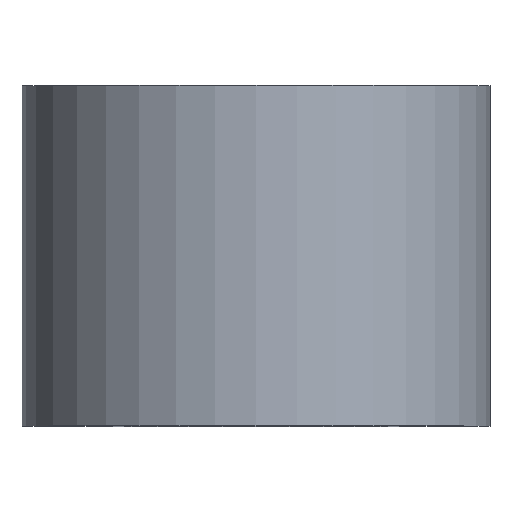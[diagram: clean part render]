
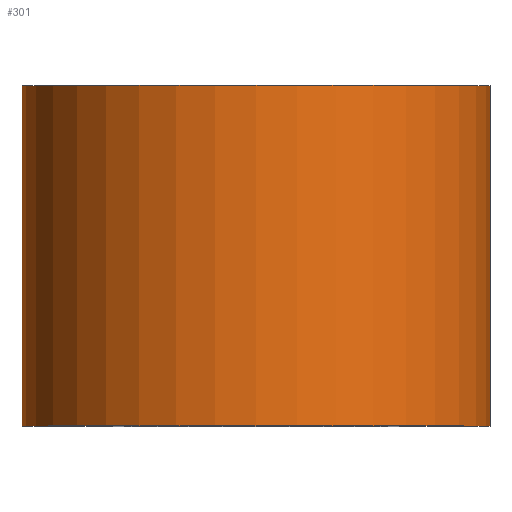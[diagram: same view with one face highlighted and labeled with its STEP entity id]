
A CAD part, top view. The second image highlights one B-rep face of the part: STEP entity #301.
In plain terms, the highlighted cylindrical face has radius 11 mm (diameter 22 mm), a partial arc.
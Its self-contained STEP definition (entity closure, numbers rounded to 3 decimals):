
#8 = CARTESIAN_POINT ( 'NONE',  ( -11., 0., 0. ) ) ;
#11 = AXIS2_PLACEMENT_3D ( 'NONE', #43, #142, #93 ) ;
#12 = VERTEX_POINT ( 'NONE', #66 ) ;
#26 = DIRECTION ( 'NONE',  ( -1., 0., 0. ) ) ;
#27 = VECTOR ( 'NONE', #192, 1000. ) ;
#36 = DIRECTION ( 'NONE',  ( 0., 1., 0. ) ) ;
#41 = CIRCLE ( 'NONE', #11, 11. ) ;
#43 = CARTESIAN_POINT ( 'NONE',  ( 0., 0., 0. ) ) ;
#53 = CARTESIAN_POINT ( 'NONE',  ( 11., 0., 0. ) ) ;
#57 = FACE_OUTER_BOUND ( 'NONE', #118, .T. ) ;
#66 = CARTESIAN_POINT ( 'NONE',  ( -11., 16., 0. ) ) ;
#74 = ORIENTED_EDGE ( 'NONE', *, *, #264, .F. ) ;
#76 = CIRCLE ( 'NONE', #153, 11. ) ;
#88 = ORIENTED_EDGE ( 'NONE', *, *, #268, .T. ) ;
#93 = DIRECTION ( 'NONE',  ( -1., 0., 0. ) ) ;
#97 = CARTESIAN_POINT ( 'NONE',  ( 11., 0., 0. ) ) ;
#118 = EDGE_LOOP ( 'NONE', ( #170, #88, #74, #223 ) ) ;
#121 = CYLINDRICAL_SURFACE ( 'NONE', #220, 11. ) ;
#123 = VECTOR ( 'NONE', #293, 1000. ) ;
#142 = DIRECTION ( 'NONE',  ( 0., 1., 0. ) ) ;
#149 = VERTEX_POINT ( 'NONE', #8 ) ;
#153 = AXIS2_PLACEMENT_3D ( 'NONE', #216, #36, #189 ) ;
#163 = CARTESIAN_POINT ( 'NONE',  ( -11., 0., 0. ) ) ;
#170 = ORIENTED_EDGE ( 'NONE', *, *, #253, .T. ) ;
#189 = DIRECTION ( 'NONE',  ( -1., 0., 0. ) ) ;
#192 = DIRECTION ( 'NONE',  ( 0., 1., 0. ) ) ;
#208 = LINE ( 'NONE', #163, #27 ) ;
#216 = CARTESIAN_POINT ( 'NONE',  ( 0., 16., 0. ) ) ;
#219 = LINE ( 'NONE', #53, #123 ) ;
#220 = AXIS2_PLACEMENT_3D ( 'NONE', #242, #231, #26 ) ;
#221 = VERTEX_POINT ( 'NONE', #240 ) ;
#223 = ORIENTED_EDGE ( 'NONE', *, *, #248, .F. ) ;
#231 = DIRECTION ( 'NONE',  ( 0., 1., 0. ) ) ;
#240 = CARTESIAN_POINT ( 'NONE',  ( 11., 16., 0. ) ) ;
#242 = CARTESIAN_POINT ( 'NONE',  ( 0., 0., 0. ) ) ;
#248 = EDGE_CURVE ( 'NONE', #149, #12, #208, .T. ) ;
#253 = EDGE_CURVE ( 'NONE', #149, #294, #41, .T. ) ;
#264 = EDGE_CURVE ( 'NONE', #12, #221, #76, .T. ) ;
#268 = EDGE_CURVE ( 'NONE', #294, #221, #219, .T. ) ;
#293 = DIRECTION ( 'NONE',  ( 0., 1., 0. ) ) ;
#294 = VERTEX_POINT ( 'NONE', #97 ) ;
#301 = ADVANCED_FACE ( 'NONE', ( #57 ), #121, .T. ) ;
